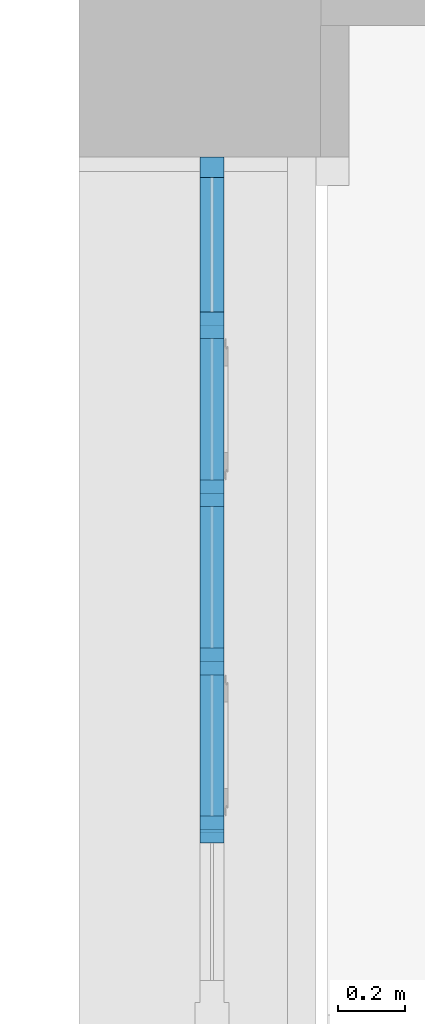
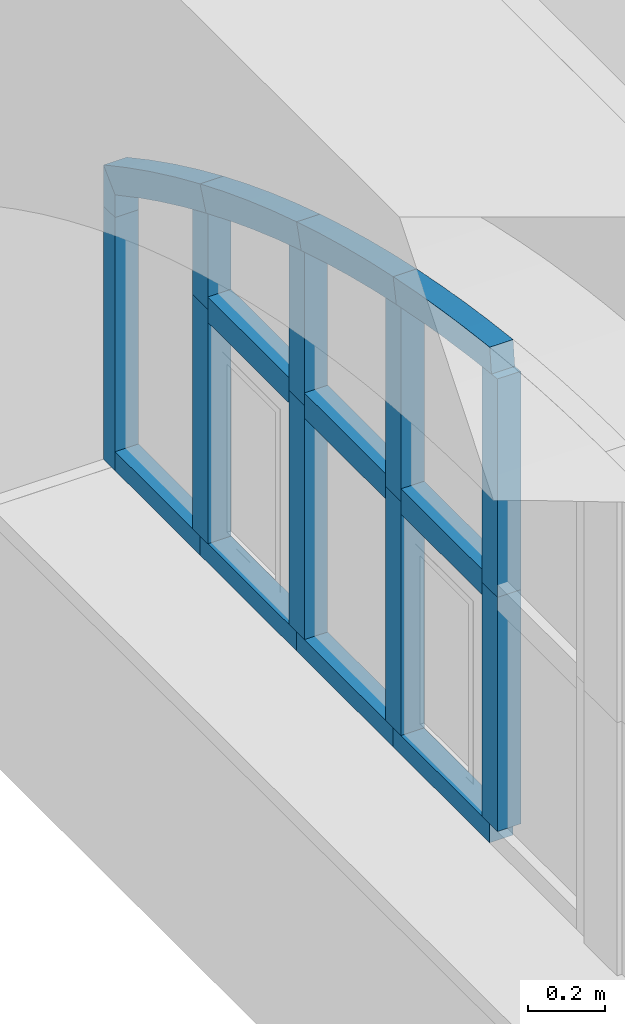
# One storey, part 11 of 32: 21 members, 1 element without a shape of its own.
"""IFC2X3 building model written with IfcOpenShell, lengths in millimetres."""

from ifc_helpers import new_model, entity, si_unit, converted_unit, derived_unit, direction, frame, frame_2d, origin, place, context, subcontext, project, spatial, polyline, circle_curve, parameter, trimmed, segment, composite_curve, rectangle, outline, extrude, source, transform, mapped, material, type_object, type_shapes, element, aggregate, save


model = new_model("IFC2X3")

# Units and contexts
model_context = context("Model", 3, precision=0.01, world=origin(), true_north=direction((6.123031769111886e-17, 1.0)))
body_context = subcontext(model_context, "Body", "Model", "MODEL_VIEW")
ifc_project = project(units=[si_unit("LENGTHUNIT", "METRE", prefix="MILLI"), si_unit("AREAUNIT", "SQUARE_METRE"), si_unit("VOLUMEUNIT", "CUBIC_METRE"), converted_unit("PLANEANGLEUNIT", "DEGREE", entity("IfcPlaneAngleMeasure", 0.017453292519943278), si_unit("PLANEANGLEUNIT", "RADIAN"), dimensions=[0, 0, 0, 0, 0, 0, 0]), si_unit("MASSUNIT", "GRAM", prefix="KILO"), derived_unit("MASSDENSITYUNIT", [(si_unit("MASSUNIT", "GRAM", prefix="KILO"), 1), (si_unit("LENGTHUNIT", "METRE"), -3)]), derived_unit("IONCONCENTRATIONUNIT", [(si_unit("MASSUNIT", "GRAM", prefix="KILO"), 1), (si_unit("LENGTHUNIT", "METRE"), -3)]), derived_unit("MOMENTOFINERTIAUNIT", [(si_unit("LENGTHUNIT", "METRE"), 4)]), si_unit("TIMEUNIT", "SECOND"), si_unit("FREQUENCYUNIT", "HERTZ"), si_unit("THERMODYNAMICTEMPERATUREUNIT", "DEGREE_CELSIUS"), derived_unit("THERMALTRANSMITTANCEUNIT", [(si_unit("MASSUNIT", "GRAM", prefix="KILO"), 1), (si_unit("THERMODYNAMICTEMPERATUREUNIT", "KELVIN"), -1), (si_unit("TIMEUNIT", "SECOND"), -3)]), derived_unit("THERMALCONDUCTANCEUNIT", [(si_unit("MASSUNIT", "GRAM", prefix="KILO"), 1), (si_unit("THERMODYNAMICTEMPERATUREUNIT", "KELVIN"), -1), (si_unit("TIMEUNIT", "SECOND"), -3), (si_unit("LENGTHUNIT", "METRE"), 1)]), derived_unit("VOLUMETRICFLOWRATEUNIT", [(si_unit("LENGTHUNIT", "METRE", prefix="DECI"), 3), (si_unit("TIMEUNIT", "SECOND"), -1)]), derived_unit("MASSFLOWRATEUNIT", [(si_unit("MASSUNIT", "GRAM", prefix="KILO"), 1), (si_unit("TIMEUNIT", "SECOND"), -1)]), derived_unit("ROTATIONALFREQUENCYUNIT", [(si_unit("TIMEUNIT", "SECOND"), -1)]), si_unit("ELECTRICCURRENTUNIT", "AMPERE"), si_unit("ELECTRICVOLTAGEUNIT", "VOLT"), si_unit("POWERUNIT", "WATT"), si_unit("FORCEUNIT", "NEWTON", prefix="KILO"), si_unit("ILLUMINANCEUNIT", "LUX"), si_unit("LUMINOUSFLUXUNIT", "LUMEN"), si_unit("LUMINOUSINTENSITYUNIT", "CANDELA"), si_unit("ENERGYUNIT", "JOULE"), derived_unit("USERDEFINED", [(si_unit("MASSUNIT", "GRAM", prefix="KILO"), -1), (si_unit("LENGTHUNIT", "METRE"), -2), (si_unit("TIMEUNIT", "SECOND"), 3), (si_unit("LUMINOUSFLUXUNIT", "LUMEN"), 1)]), derived_unit("USERDEFINED", [(si_unit("MASSUNIT", "GRAM", prefix="KILO"), 1), (si_unit("TIMEUNIT", "SECOND"), -3), (si_unit("LENGTHUNIT", "METRE"), 3), (si_unit("ELECTRICCURRENTUNIT", "AMPERE"), -2)]), derived_unit("SOUNDPOWERUNIT", [(si_unit("MASSUNIT", "GRAM", prefix="KILO"), 1), (si_unit("TIMEUNIT", "SECOND"), -3), (si_unit("LENGTHUNIT", "METRE"), 2)]), derived_unit("SOUNDPRESSUREUNIT", [(si_unit("MASSUNIT", "GRAM", prefix="KILO"), 1), (si_unit("LENGTHUNIT", "METRE"), -1), (si_unit("TIMEUNIT", "SECOND"), -2)]), derived_unit("LINEARVELOCITYUNIT", [(si_unit("LENGTHUNIT", "METRE"), 1), (si_unit("TIMEUNIT", "SECOND"), -1)]), si_unit("PRESSUREUNIT", "PASCAL"), derived_unit("USERDEFINED", [(si_unit("MASSUNIT", "GRAM", prefix="KILO"), 1), (si_unit("LENGTHUNIT", "METRE"), -2), (si_unit("TIMEUNIT", "SECOND"), -2)]), derived_unit("LINEARFORCEUNIT", [(si_unit("MASSUNIT", "GRAM", prefix="KILO"), 1), (si_unit("TIMEUNIT", "SECOND"), -2)]), derived_unit("PLANARFORCEUNIT", [(si_unit("MASSUNIT", "GRAM", prefix="KILO"), 1), (si_unit("LENGTHUNIT", "METRE"), -1), (si_unit("TIMEUNIT", "SECOND"), -2)]), derived_unit("SPECIFICHEATCAPACITYUNIT", [(si_unit("THERMODYNAMICTEMPERATUREUNIT", "KELVIN"), -1), (si_unit("LENGTHUNIT", "METRE"), 2), (si_unit("TIMEUNIT", "SECOND"), -2)]), derived_unit("HEATFLUXDENSITYUNIT", [(si_unit("MASSUNIT", "GRAM", prefix="KILO"), 1), (si_unit("TIMEUNIT", "SECOND"), -3)]), derived_unit("HEATINGVALUEUNIT", [(si_unit("LENGTHUNIT", "METRE"), 2), (si_unit("TIMEUNIT", "SECOND"), -2)]), derived_unit("VAPORPERMEABILITYUNIT", [(si_unit("LENGTHUNIT", "METRE"), -1), (si_unit("TIMEUNIT", "SECOND"), 1)]), derived_unit("DYNAMICVISCOSITYUNIT", [(si_unit("MASSUNIT", "GRAM", prefix="KILO"), 1), (si_unit("TIMEUNIT", "SECOND"), -1), (si_unit("LENGTHUNIT", "METRE"), -1)]), derived_unit("THERMALEXPANSIONCOEFFICIENTUNIT", [(si_unit("THERMODYNAMICTEMPERATUREUNIT", "KELVIN"), -1)]), derived_unit("MODULUSOFELASTICITYUNIT", [(si_unit("MASSUNIT", "GRAM", prefix="KILO"), 1), (si_unit("LENGTHUNIT", "METRE"), -1), (si_unit("TIMEUNIT", "SECOND"), -2)]), derived_unit("ISOTHERMALMOISTURECAPACITYUNIT", [(si_unit("MASSUNIT", "GRAM", prefix="KILO"), -1), (si_unit("LENGTHUNIT", "METRE"), 3)]), derived_unit("MOISTUREDIFFUSIVITYUNIT", [(si_unit("TIMEUNIT", "SECOND"), -1), (si_unit("LENGTHUNIT", "METRE"), 2)]), derived_unit("MASSPERLENGTHUNIT", [(si_unit("MASSUNIT", "GRAM", prefix="KILO"), 1), (si_unit("LENGTHUNIT", "METRE"), -1)]), derived_unit("THERMALRESISTANCEUNIT", [(si_unit("MASSUNIT", "GRAM", prefix="KILO"), -1), (si_unit("TIMEUNIT", "SECOND"), 3), (si_unit("THERMODYNAMICTEMPERATUREUNIT", "KELVIN"), 1)]), derived_unit("ACCELERATIONUNIT", [(si_unit("LENGTHUNIT", "METRE"), 1), (si_unit("TIMEUNIT", "SECOND"), -2)]), derived_unit("ANGULARVELOCITYUNIT", [(si_unit("TIMEUNIT", "SECOND"), -1), (si_unit("PLANEANGLEUNIT", "RADIAN"), 1)]), derived_unit("LINEARSTIFFNESSUNIT", [(si_unit("MASSUNIT", "GRAM", prefix="KILO"), 1), (si_unit("TIMEUNIT", "SECOND"), -2)]), derived_unit("WARPINGCONSTANTUNIT", [(si_unit("LENGTHUNIT", "METRE"), 6)]), derived_unit("LINEARMOMENTUNIT", [(si_unit("MASSUNIT", "GRAM", prefix="KILO"), 1), (si_unit("LENGTHUNIT", "METRE"), 1), (si_unit("TIMEUNIT", "SECOND"), -2)]), derived_unit("TORQUEUNIT", [(si_unit("MASSUNIT", "GRAM", prefix="KILO"), 1), (si_unit("LENGTHUNIT", "METRE"), 2), (si_unit("TIMEUNIT", "SECOND"), -2)])], contexts=[model_context])

# Site, building, storey
site_placement = place(None, origin())
site = spatial("IfcSite", under=ifc_project, at=site_placement, Name="Default", CompositionType="ELEMENT")
building_placement = place(site_placement, origin())
building = spatial("IfcBuilding", under=site, at=building_placement, Name="Eesti Rahvusraamatukogu hoone renoveerimise projekteerimistööd", CompositionType="ELEMENT")
storey_placement = place(building_placement, frame((0.0, 0.0, 4950.000000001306)))
storey = spatial("IfcBuildingStorey", under=building, at=storey_placement, Name="2. korrus", CompositionType="ELEMENT", Elevation=4950.000000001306)

# Curtain wall, members
curtain_wall_type = type_object("IfcCurtainWallType", Name="Curtain Wall:Ak-04", PredefinedType="NOTDEFINED")
curtain_wall_placement = place(storey_placement, frame((0.0, 0.0, -4950.000000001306)))
curtain_wall = element("IfcCurtainWall", 1, at=curtain_wall_placement, inside=storey, type_object=curtain_wall_type, Name="Curtain Wall:Ak-04", ObjectType="Curtain Wall:Ak-04")
ifc_material = material(Name="LUMION_dark steel window frames")
member_type_1 = type_object("IfcMemberType", Name="Rectangular Mullion:NEW 80x70mm", PredefinedType="MULLION", material=ifc_material)
shared_shape_1 = source(origin(), body_context, "Body", "SweptSolid", [
    extrude(rectangle(XDim=80.0, YDim=70.0, at=frame_2d((0.0, -3.552713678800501e-15), x_axis=(1.0, 0.0))), frame((0.0, 0.0, -420.0), z_axis=(0.0, 0.0, 1.0), x_axis=(-1.0, 0.0, 0.0)), (0.0, 0.0, 1.0), 419.999999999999),
])
type_shapes(member_type_1, [shared_shape_1])
member_1_placement = place(curtain_wall_placement, frame((-36383.999999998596, 21988.69559197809, 6550.000000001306), z_axis=(0.0, -1.0, 0.0), x_axis=(0.0, 0.0, 1.0)))
member_1 = element("IfcMember", 2, at=member_1_placement, type_object=member_type_1, material=ifc_material, Name="Rectangular Mullion:NEW 80x70mm", ObjectType="Rectangular Mullion:NEW 80x70mm", context=body_context, shape_type="MappedRepresentation", body=[
    mapped(shared_shape_1, transform((0.0, 0.0, 0.0), scale=1.0)),
])
member_2_placement = place(curtain_wall_placement, frame((-36383.999999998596, 22488.695591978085, 6550.000000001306), z_axis=(0.0, -1.0, 0.0), x_axis=(0.0, 0.0, 1.0)))
member_2 = element("IfcMember", 3, at=member_2_placement, type_object=member_type_1, material=ifc_material, Name="Rectangular Mullion:NEW 80x70mm", ObjectType="Rectangular Mullion:NEW 80x70mm", context=body_context, shape_type="MappedRepresentation", body=[
    mapped(shared_shape_1, transform((0.0, 0.0, 0.0), scale=1.0)),
])
member_3_placement = place(curtain_wall_placement, frame((-36383.999999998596, 22988.695591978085, 6550.000000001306), z_axis=(0.0, -1.0, 0.0), x_axis=(0.0, 0.0, 1.0)))
member_3 = element("IfcMember", 4, at=member_3_placement, type_object=member_type_1, material=ifc_material, Name="Rectangular Mullion:NEW 80x70mm", ObjectType="Rectangular Mullion:NEW 80x70mm", context=body_context, shape_type="MappedRepresentation", body=[
    mapped(shared_shape_1, transform((0.0, 0.0, 0.0), scale=1.0)),
])
member_type_2 = type_object("IfcMemberType", Name="Rectangular Mullion:NEW 60x70mm", PredefinedType="MULLION", material=ifc_material)
shared_shape_2 = source(origin(), body_context, "Body", "SweptSolid", [
    extrude(rectangle(XDim=60.0, YDim=70.0, at=frame_2d((0.0, 3.552713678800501e-15), x_axis=(1.0, 0.0))), frame((-30.0, 0.0, -500.0), z_axis=(0.0, 0.0, 1.0), x_axis=(-1.0, 0.0, 0.0)), (0.0, 0.0, 1.0), 499.999999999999),
])
type_shapes(member_type_2, [shared_shape_2])
member_4_placement = place(curtain_wall_placement, frame((-36383.999999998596, 22448.695591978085, 5750.000000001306), z_axis=(0.0, 1.0, 0.0), x_axis=(0.0, 0.0, -1.0)))
member_4 = element("IfcMember", 5, at=member_4_placement, type_object=member_type_2, material=ifc_material, Name="Rectangular Mullion:NEW 60x70mm", ObjectType="Rectangular Mullion:NEW 60x70mm", context=body_context, shape_type="MappedRepresentation", body=[
    mapped(shared_shape_2, transform((0.0, 0.0, 0.0), scale=1.0)),
])
member_5_placement = place(curtain_wall_placement, frame((-36383.999999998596, 22948.695591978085, 5750.000000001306), z_axis=(0.0, 1.0, 0.0), x_axis=(0.0, 0.0, -1.0)))
member_5 = element("IfcMember", 6, at=member_5_placement, type_object=member_type_2, material=ifc_material, Name="Rectangular Mullion:NEW 60x70mm", ObjectType="Rectangular Mullion:NEW 60x70mm", context=body_context, shape_type="MappedRepresentation", body=[
    mapped(shared_shape_2, transform((0.0, 0.0, 0.0), scale=1.0)),
])
member_6_placement = place(curtain_wall_placement, frame((-36383.999999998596, 23448.695591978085, 5750.000000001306), z_axis=(0.0, 1.0, 0.0), x_axis=(0.0, 0.0, -1.0)))
member_6 = element("IfcMember", 7, at=member_6_placement, type_object=member_type_2, material=ifc_material, Name="Rectangular Mullion:NEW 60x70mm", ObjectType="Rectangular Mullion:NEW 60x70mm", context=body_context, shape_type="MappedRepresentation", body=[
    mapped(shared_shape_2, transform((0.0, 0.0, 0.0), scale=1.0)),
])
member_type_3 = type_object("IfcMemberType", Name="Rectangular Mullion:NEW 60x70mm", PredefinedType="MULLION", material=ifc_material)
shared_shape_3 = source(origin(), body_context, "Body", "SweptSolid", [
    extrude(rectangle(XDim=60.0, YDim=70.0, at=frame_2d((0.0, 3.552713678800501e-15), x_axis=(1.0, 0.0))), frame((-30.0, 0.0, -440.0), z_axis=(0.0, 0.0, 1.0), x_axis=(-1.0, 0.0, 0.0)), (0.0, 0.0, 1.0), 439.9999999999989),
])
type_shapes(member_type_3, [shared_shape_3])
member_7_placement = place(curtain_wall_placement, frame((-36383.999999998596, 23888.695591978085, 5750.000000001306), z_axis=(0.0, 1.0, 0.0), x_axis=(0.0, 0.0, -1.0)))
member_7 = element("IfcMember", 8, at=member_7_placement, type_object=member_type_3, material=ifc_material, Name="Rectangular Mullion:NEW 60x70mm", ObjectType="Rectangular Mullion:NEW 60x70mm", context=body_context, shape_type="MappedRepresentation", body=[
    mapped(shared_shape_3, transform((0.0, 0.0, 0.0), scale=1.0)),
])
member_type_4 = type_object("IfcMemberType", Name="Rectangular Mullion:NEW 80x70mm", PredefinedType="MULLION", material=ifc_material)
shared_shape_4 = source(origin(), body_context, "Body", "SweptSolid", [
    extrude(rectangle(XDim=80.0, YDim=70.0, at=frame_2d((0.0, -3.552713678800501e-15), x_axis=(1.0, 0.0))), frame((0.0, 0.0, -740.0), z_axis=(0.0, 0.0, 1.0), x_axis=(-1.0, 0.0, 0.0)), (0.0, 0.0, 1.0), 740.0),
])
type_shapes(member_type_4, [shared_shape_4])
member_8_placement = place(curtain_wall_placement, frame((-36383.999999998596, 21948.69559197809, 5810.000000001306), z_axis=(0.0, 0.0, -1.0), x_axis=(0.0, -1.0, 0.0)))
member_8 = element("IfcMember", 9, at=member_8_placement, type_object=member_type_4, material=ifc_material, Name="Rectangular Mullion:NEW 80x70mm", ObjectType="Rectangular Mullion:NEW 80x70mm", context=body_context, shape_type="MappedRepresentation", body=[
    mapped(shared_shape_4, transform((0.0, 0.0, 0.0), scale=1.0)),
])
member_9_placement = place(curtain_wall_placement, frame((-36383.999999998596, 22448.695591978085, 5810.000000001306), z_axis=(0.0, 0.0, -1.0), x_axis=(0.0, -1.0, 0.0)))
member_9 = element("IfcMember", 10, at=member_9_placement, type_object=member_type_4, material=ifc_material, Name="Rectangular Mullion:NEW 80x70mm", ObjectType="Rectangular Mullion:NEW 80x70mm", context=body_context, shape_type="MappedRepresentation", body=[
    mapped(shared_shape_4, transform((0.0, 0.0, 0.0), scale=1.0)),
])
member_10_placement = place(curtain_wall_placement, frame((-36383.999999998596, 22948.695591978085, 5810.000000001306), z_axis=(0.0, 0.0, -1.0), x_axis=(0.0, -1.0, 0.0)))
member_10 = element("IfcMember", 11, at=member_10_placement, type_object=member_type_4, material=ifc_material, Name="Rectangular Mullion:NEW 80x70mm", ObjectType="Rectangular Mullion:NEW 80x70mm", context=body_context, shape_type="MappedRepresentation", body=[
    mapped(shared_shape_4, transform((0.0, 0.0, 0.0), scale=1.0)),
])
member_11_placement = place(curtain_wall_placement, frame((-36383.999999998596, 23448.695591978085, 5810.000000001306), z_axis=(0.0, 0.0, -1.0), x_axis=(0.0, -1.0, 0.0)))
member_11 = element("IfcMember", 12, at=member_11_placement, type_object=member_type_4, material=ifc_material, Name="Rectangular Mullion:NEW 80x70mm", ObjectType="Rectangular Mullion:NEW 80x70mm", context=body_context, shape_type="MappedRepresentation", body=[
    mapped(shared_shape_4, transform((0.0, 0.0, 0.0), scale=1.0)),
])
member_type_5 = type_object("IfcMemberType", Name="Rectangular Mullion:NEW 80x70mm", PredefinedType="MULLION", material=ifc_material)
shared_shape_5 = source(origin(), body_context, "Body", "SweptSolid", [
    extrude(outline(composite_curve([segment(polyline([(-411.6963002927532, -38.21553912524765), (278.6344972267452, -38.21553912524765)]), True, "CONTINUOUS"), segment(trimmed(circle_curve(frame_2d((-4991.472419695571, -598.2155391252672), x_axis=(1.0, 0.0)), 5299.776119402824), [parameter(6.065472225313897)], [parameter(6.403451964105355)], True, "PARAMETER"), True, "CONTINUOUS"), segment(trimmed(circle_curve(frame_2d((-4991.472419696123, -598.2155391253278), x_axis=(0.9937612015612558, 0.11152880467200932)), 5299.776119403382), [parameter(0.0)], [parameter(0.532503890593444)], True, "PARAMETER"), True, "CONTINUOUS"), segment(polyline([(269.51863863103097, 41.78446087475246), (-411.6963002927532, 41.78446087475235)]), True, "CONTINUOUS"), segment(polyline([(-411.6963002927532, 41.78446087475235), (-411.6963002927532, -38.21553912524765)]), True, "CONTINUOUS")], self_intersect=False)), frame((1.7844608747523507, -35.0, -411.6963002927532), z_axis=(0.0, 1.0, 0.0), x_axis=(0.0, 0.0, -1.0)), (0.0, 0.0, 1.0), 69.99999999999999),
])
type_shapes(member_type_5, [shared_shape_5])
member_12_placement = place(curtain_wall_placement, frame((-36383.999999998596, 21948.69559197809, 6550.000000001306), z_axis=(0.0, 0.0, -1.0), x_axis=(0.0, -1.0, 0.0)))
member_12 = element("IfcMember", 13, at=member_12_placement, type_object=member_type_5, material=ifc_material, Name="Rectangular Mullion:NEW 80x70mm", ObjectType="Rectangular Mullion:NEW 80x70mm", context=body_context, shape_type="MappedRepresentation", body=[
    mapped(shared_shape_5, transform((0.0, 0.0, 0.0), scale=1.0)),
])
member_type_6 = type_object("IfcMemberType", Name="Rectangular Mullion:NEW 80x70mm", PredefinedType="MULLION", material=ifc_material)
shared_shape_6 = source(origin(), body_context, "Body", "SweptSolid", [
    extrude(outline(composite_curve([segment(polyline([(-363.376788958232, -36.72848839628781), (249.53684896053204, -36.72848839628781)]), True, "CONTINUOUS"), segment(trimmed(circle_curve(frame_2d((-4943.152908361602, -1096.7284883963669), x_axis=(0.9937612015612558, 0.11152880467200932)), 5299.776119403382), [parameter(5.134001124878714)], [parameter(5.394992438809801)], True, "PARAMETER"), True, "CONTINUOUS"), segment(trimmed(circle_curve(frame_2d((-4943.152908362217, -1096.7284883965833), x_axis=(0.9788729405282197, 0.20446947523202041)), 5299.776119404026), [parameter(0.0)], [parameter(0.6231507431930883)], True, "PARAMETER"), True, "CONTINUOUS"), segment(polyline([(232.5622031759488, 43.27151160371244), (-363.376788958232, 43.27151160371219)]), True, "CONTINUOUS"), segment(polyline([(-363.376788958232, 43.27151160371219), (-363.376788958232, -36.72848839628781)]), True, "CONTINUOUS")], self_intersect=False)), frame((3.2715116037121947, -35.0, -363.376788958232), z_axis=(0.0, 1.0, 0.0), x_axis=(0.0, 0.0, -1.0)), (0.0, 0.0, 1.0), 69.99999999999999),
])
type_shapes(member_type_6, [shared_shape_6])
member_13_placement = place(curtain_wall_placement, frame((-36383.999999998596, 22448.695591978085, 6550.000000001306), z_axis=(0.0, 0.0, -1.0), x_axis=(0.0, -1.0, 0.0)))
member_13 = element("IfcMember", 14, at=member_13_placement, type_object=member_type_6, material=ifc_material, Name="Rectangular Mullion:NEW 80x70mm", ObjectType="Rectangular Mullion:NEW 80x70mm", context=body_context, shape_type="MappedRepresentation", body=[
    mapped(shared_shape_6, transform((0.0, 0.0, 0.0), scale=1.0)),
])
member_type_7 = type_object("IfcMemberType", Name="Rectangular Mullion:NEW 80x70mm", PredefinedType="MULLION", material=ifc_material)
shared_shape_7 = source(origin(), body_context, "Body", "SweptSolid", [
    extrude(outline(composite_curve([segment(polyline([(-285.0515721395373, -35.24143766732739), (200.1527542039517, -35.24143766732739)]), True, "CONTINUOUS"), segment(trimmed(circle_curve(frame_2d((-4864.827691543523, -1595.241437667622), x_axis=(0.9788729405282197, 0.20446947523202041)), 5299.776119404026), [parameter(5.320243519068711)], [parameter(5.503672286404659)], True, "PARAMETER"), True, "CONTINUOUS"), segment(trimmed(circle_curve(frame_2d((-4864.827691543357, -1595.2414376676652), x_axis=(0.9547498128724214, 0.2974101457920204)), 5299.776119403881), [parameter(0.0)], [parameter(0.7237926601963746)], True, "PARAMETER"), True, "CONTINUOUS"), segment(polyline([(174.8178233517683, 44.758562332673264), (-285.0515721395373, 44.75856233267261)]), True, "CONTINUOUS"), segment(polyline([(-285.0515721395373, 44.75856233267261), (-285.0515721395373, -35.24143766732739)]), True, "CONTINUOUS")], self_intersect=False)), frame((4.758562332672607, -35.0, -285.0515721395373), z_axis=(0.0, 1.0, 0.0), x_axis=(0.0, 0.0, -1.0)), (0.0, 0.0, 1.0), 70.00000000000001),
])
type_shapes(member_type_7, [shared_shape_7])
member_14_placement = place(curtain_wall_placement, frame((-36383.999999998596, 22948.695591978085, 6550.000000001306), z_axis=(0.0, 0.0, -1.0), x_axis=(0.0, -1.0, 0.0)))
member_14 = element("IfcMember", 15, at=member_14_placement, type_object=member_type_7, material=ifc_material, Name="Rectangular Mullion:NEW 80x70mm", ObjectType="Rectangular Mullion:NEW 80x70mm", context=body_context, shape_type="MappedRepresentation", body=[
    mapped(shared_shape_7, transform((0.0, 0.0, 0.0), scale=1.0)),
])
member_type_8 = type_object("IfcMemberType", Name="Rectangular Mullion:NEW 80x70mm", PredefinedType="MULLION", material=ifc_material)
shared_shape_8 = source(origin(), body_context, "Body", "SweptSolid", [
    extrude(outline(composite_curve([segment(polyline([(-174.3077299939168, -33.75438693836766), (128.95075172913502, -33.75438693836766)]), True, "CONTINUOUS"), segment(trimmed(circle_curve(frame_2d((-4754.083849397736, -2093.7543869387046), x_axis=(0.9547498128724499, 0.2974101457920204)), 5299.776119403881), [parameter(5.5712474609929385)], [parameter(5.674213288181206)], True, "PARAMETER"), True, "CONTINUOUS"), segment(trimmed(circle_curve(frame_2d((-4754.083849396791, -2093.7543869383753), x_axis=(0.9206661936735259, 0.39035081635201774)), 5299.7761194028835), [parameter(0.0)], [parameter(0.8390347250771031)], True, "PARAMETER"), True, "CONTINUOUS"), segment(polyline([(94.42385048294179, 46.245613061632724), (-174.3077299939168, 46.24561306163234)]), True, "CONTINUOUS"), segment(polyline([(-174.3077299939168, 46.24561306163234), (-174.3077299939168, -33.75438693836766)]), True, "CONTINUOUS")], self_intersect=False)), frame((6.245613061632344, -35.0, -174.3077299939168), z_axis=(0.0, 1.0, 0.0), x_axis=(0.0, 0.0, -1.0)), (0.0, 0.0, 1.0), 70.00000000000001),
])
type_shapes(member_type_8, [shared_shape_8])
member_15_placement = place(curtain_wall_placement, frame((-36383.999999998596, 23448.695591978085, 6550.000000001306), z_axis=(0.0, 0.0, -1.0), x_axis=(0.0, -1.0, 0.0)))
member_15 = element("IfcMember", 16, at=member_15_placement, type_object=member_type_8, material=ifc_material, Name="Rectangular Mullion:NEW 80x70mm", ObjectType="Rectangular Mullion:NEW 80x70mm", context=body_context, shape_type="MappedRepresentation", body=[
    mapped(shared_shape_8, transform((0.0, 0.0, 0.0), scale=1.0)),
])
member_type_9 = type_object("IfcMemberType", Name="Rectangular Mullion:NEW 60x70mm", PredefinedType="MULLION", material=ifc_material)
shared_shape_9 = source(origin(), body_context, "Body", "SweptSolid", [
    extrude(rectangle(XDim=60.0, YDim=70.0, at=frame_2d((0.0, -3.552713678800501e-15), x_axis=(1.0, 0.0))), frame((-30.0, 0.0, -800.0), z_axis=(0.0, 0.0, 1.0), x_axis=(-1.0, 0.0, 0.0)), (0.0, 0.0, 1.0), 800.0),
])
type_shapes(member_type_9, [shared_shape_9])
member_16_placement = place(curtain_wall_placement, frame((-36383.999999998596, 23948.695591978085, 6550.000000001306), z_axis=(0.0, 0.0, 1.0), x_axis=(0.0, 1.0, 0.0)))
member_16 = element("IfcMember", 17, at=member_16_placement, type_object=member_type_9, material=ifc_material, Name="Rectangular Mullion:NEW 60x70mm", ObjectType="Rectangular Mullion:NEW 60x70mm", context=body_context, shape_type="MappedRepresentation", body=[
    mapped(shared_shape_9, transform((0.0, 0.0, 0.0), scale=1.0)),
])
member_type_10 = type_object("IfcMemberType", Name="Rectangular Mullion:NEW 60x70mm", PredefinedType="MULLION", material=ifc_material)
shared_shape_10 = source(origin(), body_context, "Body", "SweptSolid", [
    extrude(outline(polyline([(-79.56449747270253, -30.0), (50.43550252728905, -30.0), (50.43550252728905, 30.0), (-21.306507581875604, 30.0), (-79.56449747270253, -30.0)])), frame((-30.0, -35.0, -79.56449747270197), z_axis=(0.0, 1.0, 0.0), x_axis=(0.0, 0.0, -1.0)), (0.0, 0.0, 1.0), 70.00000000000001),
])
type_shapes(member_type_10, [shared_shape_10])
member_17_placement = place(curtain_wall_placement, frame((-36383.999999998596, 23948.695591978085, 6680.000000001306), z_axis=(0.0, 0.0, 1.0), x_axis=(0.0, 1.0, 0.0)))
member_17 = element("IfcMember", 18, at=member_17_placement, type_object=member_type_10, material=ifc_material, Name="Rectangular Mullion:NEW 60x70mm", ObjectType="Rectangular Mullion:NEW 60x70mm", context=body_context, shape_type="MappedRepresentation", body=[
    mapped(shared_shape_10, transform((0.0, 0.0, 0.0), scale=1.0)),
])
member_type_11 = type_object("IfcMemberType", Name="Rectangular Mullion:NEW 80x70mm", PredefinedType="MULLION", material=ifc_material)
shared_shape_11 = source(origin(), body_context, "Body", "SweptSolid", [
    extrude(outline(composite_curve([segment(polyline([(-51.82710825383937, -251.02635265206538), (28.172891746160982, -251.0263526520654)]), True, "CONTINUOUS"), segment(trimmed(circle_curve(frame_2d((5327.949011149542, -251.0263526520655), x_axis=(-0.995570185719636, 0.09402130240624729)), 5299.776119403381), [parameter(3.5622212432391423e-13)], [parameter(5.394992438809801)], True, "PARAMETER"), False, "CONTINUOUS"), segment(polyline([(51.649915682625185, 247.26550055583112), (-27.99569917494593, 254.78720474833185)]), True, "CONTINUOUS"), segment(trimmed(circle_curve(frame_2d((5327.949011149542, -251.0263526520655), x_axis=(-0.995570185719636, 0.09402130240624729)), 5379.776119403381), [parameter(3.5622212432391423e-13)], [parameter(5.394992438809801)], True, "PARAMETER"), True, "CONTINUOUS")], self_intersect=False)), frame((-51.827108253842, -35.0, -251.0263526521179), z_axis=(0.0, 1.0, 0.0), x_axis=(-0.9955701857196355, 0.0, 0.09402130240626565)), (0.0, 0.0, 1.0), 69.99999999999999),
])
type_shapes(member_type_11, [shared_shape_11])
member_18_placement = place(curtain_wall_placement, frame((-36383.999999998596, 21948.695591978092, 7316.436661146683), z_axis=(0.0, -0.9937612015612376, 0.111528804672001), x_axis=(0.0, 0.111528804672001, 0.9937612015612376)))
member_18 = element("IfcMember", 19, at=member_18_placement, type_object=member_type_11, material=ifc_material, Name="Rectangular Mullion:NEW 80x70mm", ObjectType="Rectangular Mullion:NEW 80x70mm", context=body_context, shape_type="MappedRepresentation", body=[
    mapped(shared_shape_11, transform((0.0, 0.0, 0.0), scale=1.0)),
])
member_type_12 = type_object("IfcMemberType", Name="Rectangular Mullion:NEW 80x70mm", PredefinedType="MULLION", material=ifc_material)
shared_shape_12 = source(origin(), body_context, "Body", "SweptSolid", [
    extrude(outline(composite_curve([segment(polyline([(-52.308041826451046, -256.0677643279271), (27.6919581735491, -256.0677643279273)]), True, "CONTINUOUS"), segment(trimmed(circle_curve(frame_2d((5327.468077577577, -256.0677643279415), x_axis=(-0.995390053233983, 0.09590955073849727)), 5299.776119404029), [parameter(3.5622212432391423e-13)], [parameter(5.503672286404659)], True, "PARAMETER"), False, "CONTINUOUS"), segment(polyline([(52.12364395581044, 252.23138229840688), (-27.50756030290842, 259.90414635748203)]), True, "CONTINUOUS"), segment(trimmed(circle_curve(frame_2d((5327.468077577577, -256.0677643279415), x_axis=(-0.995390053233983, 0.09590955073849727)), 5379.776119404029), [parameter(3.5622212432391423e-13)], [parameter(5.503672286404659)], True, "PARAMETER"), True, "CONTINUOUS")], self_intersect=False)), frame((-52.30804182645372, -35.0, -256.0677643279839), z_axis=(0.0, 1.0, 0.0), x_axis=(-0.9953900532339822, 0.0, 0.09590955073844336)), (0.0, 0.0, 1.0), 69.99999999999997),
])
type_shapes(member_type_12, [shared_shape_12])
member_19_placement = place(curtain_wall_placement, frame((-36383.999999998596, 22448.69559197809, 7236.341149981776), z_axis=(0.0, -0.9788729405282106, 0.20446947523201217), x_axis=(0.0, 0.20446947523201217, 0.9788729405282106)))
member_19 = element("IfcMember", 20, at=member_19_placement, type_object=member_type_12, material=ifc_material, Name="Rectangular Mullion:NEW 80x70mm", ObjectType="Rectangular Mullion:NEW 80x70mm", context=body_context, shape_type="MappedRepresentation", body=[
    mapped(shared_shape_12, transform((0.0, 0.0, 0.0), scale=1.0)),
])
member_type_13 = type_object("IfcMemberType", Name="Rectangular Mullion:NEW 80x70mm", PredefinedType="MULLION", material=ifc_material)
shared_shape_13 = source(origin(), body_context, "Body", "SweptSolid", [
    extrude(outline(composite_curve([segment(polyline([(-53.08199940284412, -263.97691053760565), (26.91800059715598, -263.97691053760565)]), True, "CONTINUOUS"), segment(trimmed(circle_curve(frame_2d((5326.694120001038, -263.97691053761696), x_axis=(-0.9951001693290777, 0.09887190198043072)), 5299.776119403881), [parameter(3.5622212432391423e-13)], [parameter(5.674213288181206)], True, "PARAMETER"), False, "CONTINUOUS"), segment(polyline([(52.886006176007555, 260.02203445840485), (-26.722007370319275, 267.9317866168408)]), True, "CONTINUOUS"), segment(trimmed(circle_curve(frame_2d((5326.694120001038, -263.97691053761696), x_axis=(-0.9951001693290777, 0.09887190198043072)), 5379.776119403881), [parameter(3.5622212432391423e-13)], [parameter(5.674213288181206)], True, "PARAMETER"), True, "CONTINUOUS")], self_intersect=False)), frame((-53.081999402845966, -35.0, -263.9769105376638), z_axis=(0.0, 1.0, 0.0), x_axis=(-0.9951001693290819, 0.0, 0.09887190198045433)), (0.0, 0.0, 1.0), 70.00000000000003),
])
type_shapes(member_type_13, [shared_shape_13])
member_20_placement = place(curtain_wall_placement, frame((-36383.999999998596, 22948.69559197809, 7106.56412389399), z_axis=(0.0, -0.9547498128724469, 0.2974101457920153), x_axis=(0.0, 0.2974101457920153, 0.9547498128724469)))
member_20 = element("IfcMember", 21, at=member_20_placement, type_object=member_type_13, material=ifc_material, Name="Rectangular Mullion:NEW 80x70mm", ObjectType="Rectangular Mullion:NEW 80x70mm", context=body_context, shape_type="MappedRepresentation", body=[
    mapped(shared_shape_13, transform((0.0, 0.0, 0.0), scale=1.0)),
])
member_type_14 = type_object("IfcMemberType", Name="Rectangular Mullion:NEW 80x70mm", PredefinedType="MULLION", material=ifc_material)
shared_shape_14 = source(origin(), body_context, "Body", "SweptSolid", [
    extrude(outline(composite_curve([segment(trimmed(circle_curve(frame_2d((5012.255803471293, 1821.4299836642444), x_axis=(-0.9214052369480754, -0.3886031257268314)), 5379.776119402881), [parameter(354.0757341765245)], [parameter(359.99999999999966)], True, "PARAMETER"), True, "CONTINUOUS"), segment(polyline([(55.30191344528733, -269.16783204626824), (129.01433240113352, -238.07958198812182)]), True, "CONTINUOUS"), segment(trimmed(circle_curve(frame_2d((5012.255803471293, 1821.4299836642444), x_axis=(-0.9214052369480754, -0.3886031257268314)), 5299.776119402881), [parameter(354.33940494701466)], [parameter(359.99999999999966)], True, "PARAMETER"), False, "CONTINUOUS"), segment(polyline([(-50.313741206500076, 253.62370701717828), (-134.0025046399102, 253.62370701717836)]), True, "CONTINUOUS")], self_intersect=False)), frame((-53.64398821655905, -35.0, -269.50314648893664), z_axis=(0.0, -1.0, 0.0), x_axis=(-0.9214052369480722, 0.0, 0.3886031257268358)), (0.0, 0.0, -1.0), 70.00000000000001),
])
type_shapes(member_type_14, [shared_shape_14])
member_21_placement = place(curtain_wall_placement, frame((-36383.999999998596, 23448.69559197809, 6923.201883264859), z_axis=(0.0, -0.9206661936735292, 0.3903508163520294), x_axis=(0.0, 0.3903508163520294, 0.9206661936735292)))
member_21 = element("IfcMember", 22, at=member_21_placement, type_object=member_type_14, material=ifc_material, Name="Rectangular Mullion:NEW 80x70mm", ObjectType="Rectangular Mullion:NEW 80x70mm", context=body_context, shape_type="MappedRepresentation", body=[
    mapped(shared_shape_14, transform((0.0, 0.0, 0.0), scale=1.0)),
])
aggregate(curtain_wall, [member_12, member_8, member_13, member_9, member_14, member_10, member_15, member_11, member_4, member_5, member_6, member_7, member_16, member_17, member_18, member_19, member_20, member_21, member_1, member_2, member_3])

save(model, "model.ifc")
